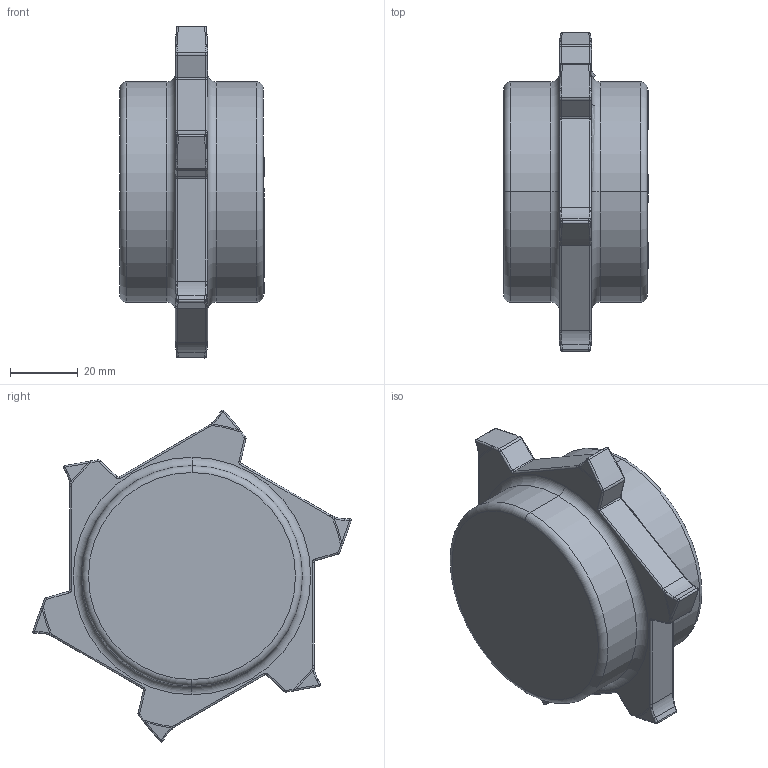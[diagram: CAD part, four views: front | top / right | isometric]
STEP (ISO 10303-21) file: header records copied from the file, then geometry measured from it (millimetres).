
FILE_DESCRIPTION((''),'2;1');
FILE_NAME('18Z06','2011-12-21T',('mth'),(''),'PRO/ENGINEER BY PARAMETRIC TECHNOLOGY CORPORATION, 2010280','PRO/ENGINEER BY PARAMETRIC TECHNOLOGY CORPORATION, 2010280','');
FILE_SCHEMA(('CONFIG_CONTROL_DESIGN','SHAPE_APPEARANCE_LAYERS_GROUPS'));
Length unit declared in the file: millimetre
Products named in the file (1): 18Z06
Bounding box: 42.6 x 93.86 x 97.82 mm (x, y, z)
Volume: 158337.6 mm3; surface area: 19355.1 mm2
Topology: 1 solids, 1 shells, 730 faces, 1927 edges, 1229 vertices
Faces by surface type: plane 518, bspline 68, torus 60, cylinder 58, cone 14, sphere 12
Entity records: 29504 total; most frequent: CARTESIAN_POINT 5938, ORIENTED_EDGE 3850, DIRECTION 3418, PRESENTATION_STYLE_ASSIGNMENT 1926, STYLED_ITEM 1926, CURVE_STYLE 1925, EDGE_CURVE 1925, VECTOR 1500
